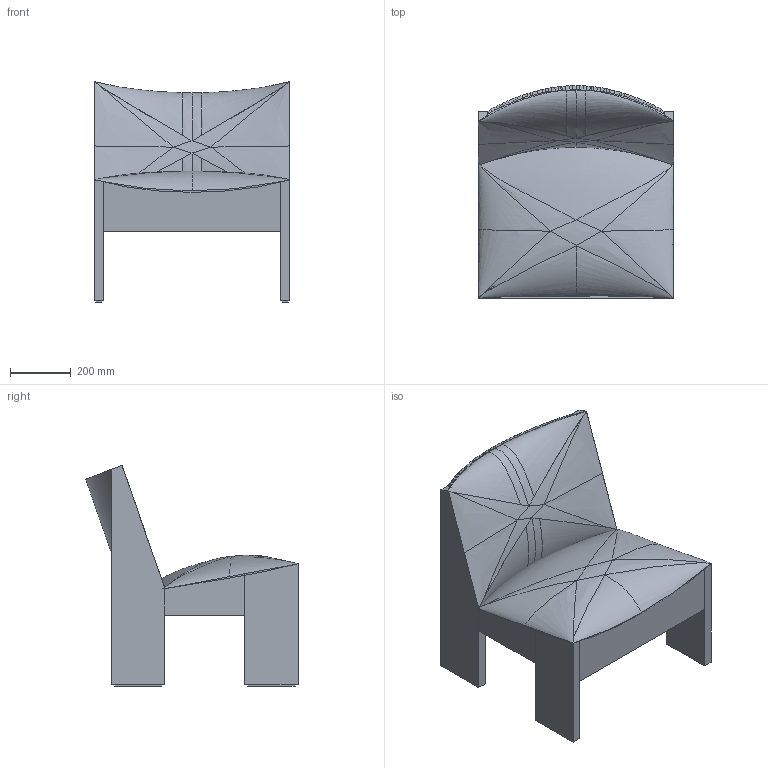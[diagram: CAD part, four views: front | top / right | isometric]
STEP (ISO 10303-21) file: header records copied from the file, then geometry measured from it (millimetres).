
FILE_DESCRIPTION(/* description */ (''),/* implementation_level */ '2;1');
FILE_NAME(/* name */ 'Tenon Lounge Chair 3D_20240326',/* time_stamp */ '2024-03-26T18:03:45+01:00',/* author */ (''),/* organization */ (''),/* preprocessor_version */ 'ST-DEVELOPER v15',/* originating_system */ '',/* authorisation */ '');
FILE_SCHEMA (('AUTOMOTIVE_DESIGN'));
Length unit declared in the file: millimetre
Products named in the file (1): Document
Bounding box: 645.56 x 701.53 x 729.18 mm (x, y, z)
Volume: 42590853.2 mm3; surface area: 3883609.4 mm2
Topology: 15 solids, 16 shells, 187 faces, 486 edges, 308 vertices
Faces by surface type: bspline 118, plane 69
Entity records: 44554 total; most frequent: CARTESIAN_POINT 41403, ORIENTED_EDGE 915, B_SPLINE_CURVE_WITH_KNOTS 468, EDGE_CURVE 465, VERTEX_POINT 302, ADVANCED_FACE 187, FACE_OUTER_BOUND 187, EDGE_LOOP 187
